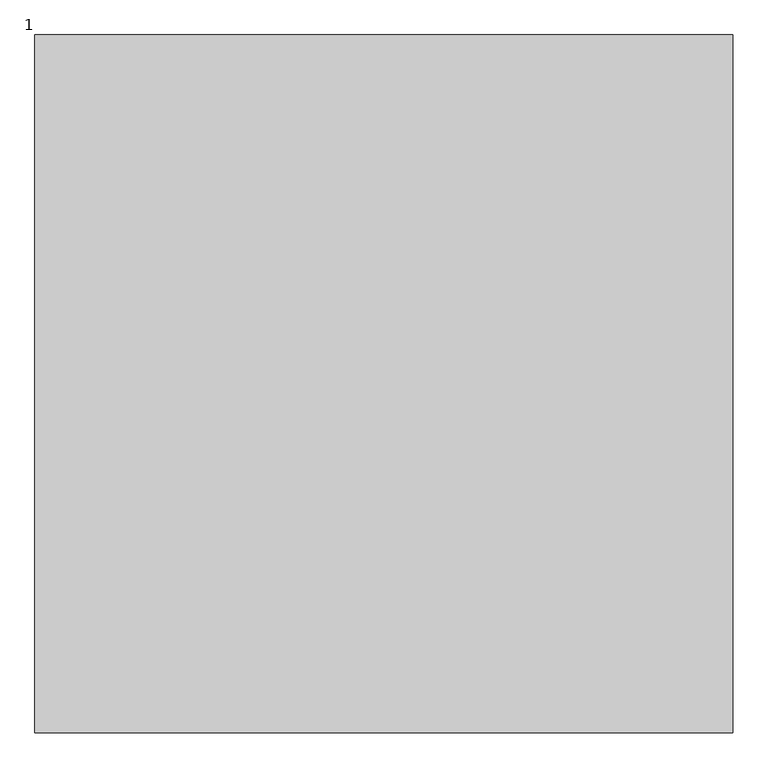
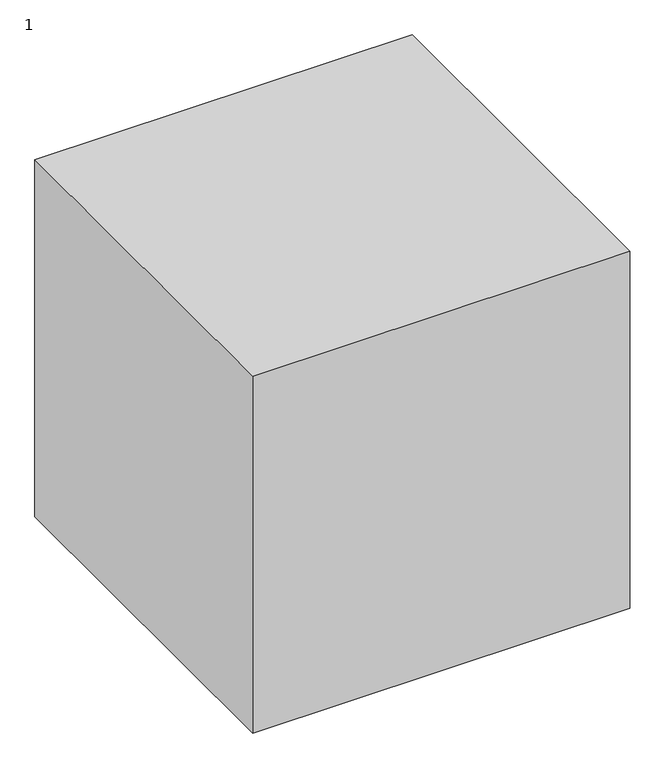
"""IFC4 building model written with IfcOpenShell, lengths in millimetres: proxy geometry, 1221111 : 1."""

import ifcopenshell
import ifcopenshell.guid

model = None  # the IFC model being written
_history = None  # IfcOwnerHistory: only IFC2X3 demands one
_inside = {}  # id of a spatial element -> (the spatial element, [elements in it])
_under = {}  # id of a project, library or spatial element -> (it, [spatial elements below it])
_declared = {}  # id of a project -> (the project, [libraries it declares])
_typed = {}  # id of a type object -> (the type object, [elements of that type])
_made_of = {}  # id of a material, layer set ... -> (it, [elements and type objects made of it])


def new_model(schema):
    """Start an empty IFC model of exactly this schema.

    Asked for "IFC4X3", IfcOpenShell would pick the latest addendum, in which some entities
    have other attributes; the version numbers below select the first issue.
    IFC2X3 requires an IfcOwnerHistory on every rooted entity: one is made here for all.
    """
    global model, _history
    if schema == "IFC4X3":
        model = ifcopenshell.file(schema_version=(4, 3, 0, 0))
    else:
        model = ifcopenshell.file(schema=schema)
    _inside.clear()
    _under.clear()
    _declared.clear()
    _typed.clear()
    _made_of.clear()
    _history = None
    if model.schema == "IFC2X3":
        org = make("IfcOrganization", Name="unknown")
        user = make(
            "IfcPersonAndOrganization",
            ThePerson=make("IfcPerson", FamilyName="unknown"),
            TheOrganization=org,
        )
        app = make(
            "IfcApplication",
            ApplicationDeveloper=org,
            Version="unknown",
            ApplicationFullName="unknown",
            ApplicationIdentifier="unknown",
        )
        _history = make(
            "IfcOwnerHistory",
            OwningUser=user,
            OwningApplication=app,
            ChangeAction="ADDED",
            CreationDate=0,
        )
    return model


def make(cls, **values):
    """One entity of the class cls with the attributes given. An attribute that is None is left unset."""
    return model.create_entity(
        cls, **{name: value for name, value in values.items() if value is not None}
    )


def rooted(cls, **values):
    """An entity with a GlobalId (a new one), such as an element, a storey or a relation."""
    return make(cls, GlobalId=ifcopenshell.guid.new(), OwnerHistory=_history, **values)


def si_unit(unit_type, name, prefix=None):
    """IfcSIUnit, for example si_unit("LENGTHUNIT", "METRE", prefix="MILLI")."""
    return make("IfcSIUnit", UnitType=unit_type, Prefix=prefix, Name=name)


def assignment(units):
    """IfcUnitAssignment: the units of a project."""
    return None if units is None else make("IfcUnitAssignment", Units=units)


def point(xyz):
    """IfcCartesianPoint."""
    return None if xyz is None else make("IfcCartesianPoint", Coordinates=xyz)


def direction(xyz):
    """IfcDirection."""
    return None if xyz is None else make("IfcDirection", DirectionRatios=xyz)


def frame(location, z_axis=None, x_axis=None):
    """IfcAxis2Placement3D, a coordinate frame: its origin and axes. An axis left out is left unset."""
    return make(
        "IfcAxis2Placement3D",
        Location=point(location),
        Axis=direction(z_axis),
        RefDirection=direction(x_axis),
    )


def origin():
    """The frame at (0, 0, 0) with its axes left unset."""
    return frame((0.0, 0.0, 0.0))


def origin_with_axes():
    """The frame at (0, 0, 0) with the z axis (0, 0, 1) and the x axis (1, 0, 0) written out."""
    return frame((0.0, 0.0, 0.0), z_axis=(0.0, 0.0, 1.0), x_axis=(1.0, 0.0, 0.0))


def place(relative_to, where):
    """IfcLocalPlacement: puts the frame where relative to a parent placement (None: the world)."""
    return make(
        "IfcLocalPlacement", PlacementRelTo=relative_to, RelativePlacement=where
    )


def context(
    kind, dimensions, precision=None, world=None, true_north=None, identifier=None
):
    """IfcGeometricRepresentationContext, for example the 3D "Model" context."""
    return make(
        "IfcGeometricRepresentationContext",
        ContextIdentifier=identifier,
        ContextType=kind,
        CoordinateSpaceDimension=dimensions,
        Precision=precision,
        WorldCoordinateSystem=world,
        TrueNorth=true_north,
    )


def project(units=None, contexts=None):
    """IfcProject with its units and contexts."""
    return rooted(
        "IfcProject",
        Name="project",
        RepresentationContexts=contexts,
        UnitsInContext=assignment(units),
    )


def spatial(cls, under=None, at=None, **own):
    """A site, building, storey or space (cls), placed at a placement, below another one or the project."""
    s = rooted(cls, ObjectPlacement=at, **own)
    if under is not None:
        _under.setdefault(under.id(), (under, []))[1].append(s)
    return s


def polyline(points):
    """IfcPolyline through the points."""
    return make("IfcPolyline", Points=[point(p) for p in points])


def outline(outer, holes=None, kind="AREA"):
    """IfcArbitraryClosedProfileDef: a profile drawn as a closed curve; with holes, ...WithVoids."""
    if holes is None:
        return make("IfcArbitraryClosedProfileDef", ProfileType=kind, OuterCurve=outer)
    return make(
        "IfcArbitraryProfileDefWithVoids",
        ProfileType=kind,
        OuterCurve=outer,
        InnerCurves=holes,
    )


def extrude(swept, where, along, depth):
    """IfcExtrudedAreaSolid: the profile swept, set in the frame where, extruded along a direction by depth."""
    return make(
        "IfcExtrudedAreaSolid",
        SweptArea=swept,
        Position=where,
        ExtrudedDirection=direction(along),
        Depth=depth,
    )


def shape(context_of_items, identifier, shape_type, items):
    """IfcShapeRepresentation: the items that make up one representation, for example the "Body"."""
    return make(
        "IfcShapeRepresentation",
        ContextOfItems=context_of_items,
        RepresentationIdentifier=identifier,
        RepresentationType=shape_type,
        Items=items,
    )


def source(mapping_origin, context_of_items, identifier, shape_type, items):
    """IfcRepresentationMap: a shape defined once, which mapped items show again and again."""
    return make(
        "IfcRepresentationMap",
        MappingOrigin=mapping_origin,
        MappedRepresentation=shape(context_of_items, identifier, shape_type, items),
    )


def transform(
    local_origin,
    x_axis=None,
    y_axis=None,
    z_axis=None,
    scale=None,
    scale2=None,
    scale3=None,
    uniform=True,
):
    """IfcCartesianTransformationOperator3D, or its non-uniform kind. x_axis, y_axis, z_axis: its Axis1, 2, 3."""
    if uniform:
        return make(
            "IfcCartesianTransformationOperator3D",
            Axis1=direction(x_axis),
            Axis2=direction(y_axis),
            LocalOrigin=point(local_origin),
            Scale=scale,
            Axis3=direction(z_axis),
        )
    return make(
        "IfcCartesianTransformationOperator3DnonUniform",
        Axis1=direction(x_axis),
        Axis2=direction(y_axis),
        LocalOrigin=point(local_origin),
        Scale=scale,
        Axis3=direction(z_axis),
        Scale2=scale2,
        Scale3=scale3,
    )


def mapped(mapping_source, mapping_target):
    """IfcMappedItem: shows the shape of a source again, moved by a transform."""
    return make(
        "IfcMappedItem", MappingSource=mapping_source, MappingTarget=mapping_target
    )


def made_of(thing, what):
    """Note that an element or type object is made of a material, layer set ...; save() writes the relation."""
    if what is not None:
        _made_of.setdefault(what.id(), (what, []))[1].append(thing)
    return thing


def element(
    cls,
    number,
    at=None,
    inside=None,
    cuts=None,
    type_object=None,
    material=None,
    context=None,
    identifier="Body",
    shape_type=None,
    held_by="IfcProductDefinitionShape",
    body=None,
    shapes=None,
    **own,
):
    """One element of the class cls, such as IfcWall. Its Tag is "e" and its number.

    at: its placement. inside: the storey or other place that contains it. cuts: it is an
    opening in that element (IfcRelVoidsElement). A single representation is given by context,
    identifier, shape_type and body (its items); several are given by shapes. held_by: the class
    of the entity that holds the representations. save() writes the other relations.
    """
    e = rooted(cls, Tag="e%d" % number, ObjectPlacement=at, **own)
    if body is not None:
        shapes = [shape(context, identifier, shape_type, body)]
    if shapes is not None:
        e.Representation = make(held_by, Representations=shapes)
    if inside is not None:
        _inside.setdefault(inside.id(), (inside, []))[1].append(e)
    if cuts is not None:
        rooted(
            "IfcRelVoidsElement", RelatingBuildingElement=cuts, RelatedOpeningElement=e
        )
    if type_object is not None:
        _typed.setdefault(type_object.id(), (type_object, []))[1].append(e)
    return made_of(e, material)


def aggregate(whole, parts):
    """IfcRelAggregates: a whole, such as a stair, and the parts it consists of."""
    return rooted("IfcRelAggregates", RelatingObject=whole, RelatedObjects=parts)


def save(model, path):
    """Write the relations noted so far, then the file.

    IfcRelAggregates (storeys below a building ...), IfcRelContainedInSpatialStructure (elements
    in a storey), IfcRelDefinesByType, IfcRelAssociatesMaterial and IfcRelDeclares: one each for
    every whole, place, type object, material and project.
    """
    for whole, parts in _under.values():
        aggregate(whole, parts)
    for where, things in _inside.values():
        rooted(
            "IfcRelContainedInSpatialStructure",
            RelatedElements=things,
            RelatingStructure=where,
        )
    for kind, things in _typed.values():
        rooted("IfcRelDefinesByType", RelatedObjects=things, RelatingType=kind)
    for what, things in _made_of.values():
        rooted("IfcRelAssociatesMaterial", RelatedObjects=things, RelatingMaterial=what)
    for by, libraries in _declared.values():
        rooted("IfcRelDeclares", RelatingContext=by, RelatedDefinitions=libraries)
    model.write(path)


def proxy_1_2782416e(model_context):
    return source(origin(), model_context, "Body", "SweptSolid", [
        extrude(outline(polyline([(-2307.9756708, 21335.2294472), (-2307.9756708, 20335.2294472), (-3307.9756708, 20335.2294472), (-3307.9756708, 21335.2294472), (-2307.9756708, 21335.2294472)])), origin_with_axes(), (0.0, 0.0, 1.0), 1000.0),
    ])


if __name__ == "__main__":
    model = new_model("IFC4")
    model_context = context("Model", 3, world=origin())
    ifc_project = project(units=[si_unit("LENGTHUNIT", "METRE", prefix="MILLI")], contexts=[model_context])
    site = spatial("IfcSite", under=ifc_project)
    building = spatial("IfcBuilding", under=site)
    placement = place(None, origin())
    proxy_1_shape = proxy_1_2782416e(model_context)
    element("IfcBuildingElementProxy", 1, Name="1221111 : 1", ObjectType="1221111 : 1", at=placement, inside=building, context=model_context, shape_type="MappedRepresentation", body=[
        mapped(proxy_1_shape, transform((0.0, 0.0, 0.0), x_axis=(1.0, 0.0, 0.0), y_axis=(0.0, 1.0, 0.0), z_axis=(0.0, 0.0, 1.0))),
    ])
    save(model, "model.ifc")
